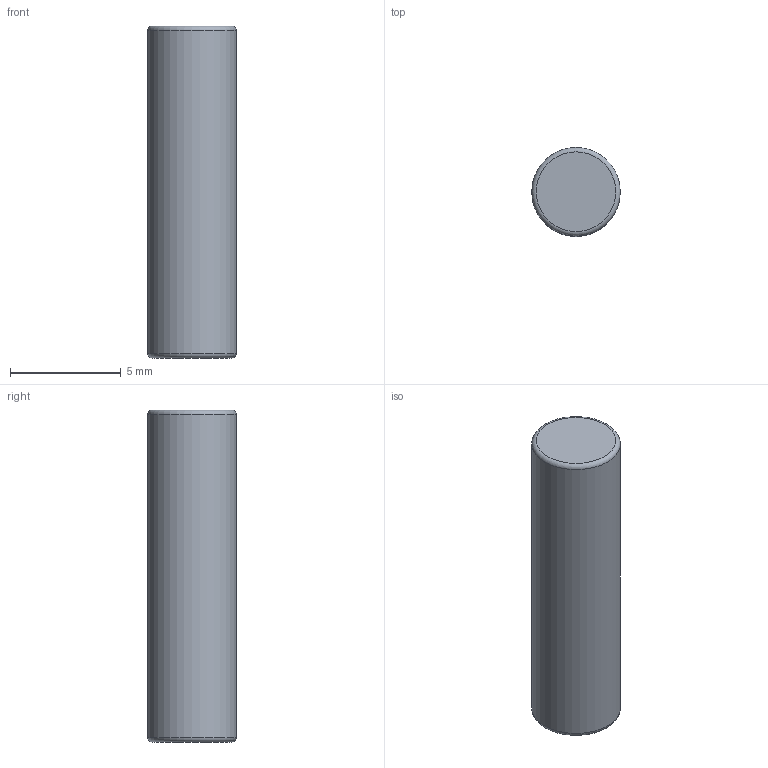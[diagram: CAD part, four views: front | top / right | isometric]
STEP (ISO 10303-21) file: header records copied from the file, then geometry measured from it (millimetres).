
FILE_DESCRIPTION(/* description */ (''),/* implementation_level */ '2;1');
FILE_NAME(/* name */ 'D:\STEP files\end pin.stp',/* time_stamp */ '2020-08-13T23:50:40+02:00',/* author */ ('Vít Budina'),/* organization */ (''),/* preprocessor_version */ 'ST-DEVELOPER v18',/* originating_system */ 'Autodesk Inventor 2020',/* authorisation */ '');
FILE_SCHEMA (('AUTOMOTIVE_DESIGN { 1 0 10303 214 3 1 1 }'));
Length unit declared in the file: millimetre
Products named in the file (1): end pin
Bounding box: 4 x 4 x 15 mm (x, y, z)
Volume: 188.3 mm3; surface area: 211.4 mm2
Topology: 1 solids, 1 shells, 5 faces, 11 edges, 8 vertices
Faces by surface type: torus 2, plane 2, cylinder 1
Full cylindrical faces by diameter (mm): 4 x1
Entity records: 192 total; most frequent: DIRECTION 33, CARTESIAN_POINT 25, ORIENTED_EDGE 22, AXIS2_PLACEMENT_3D 16, EDGE_CURVE 11, CIRCLE 10, VERTEX_POINT 8, FACE_OUTER_BOUND 5
